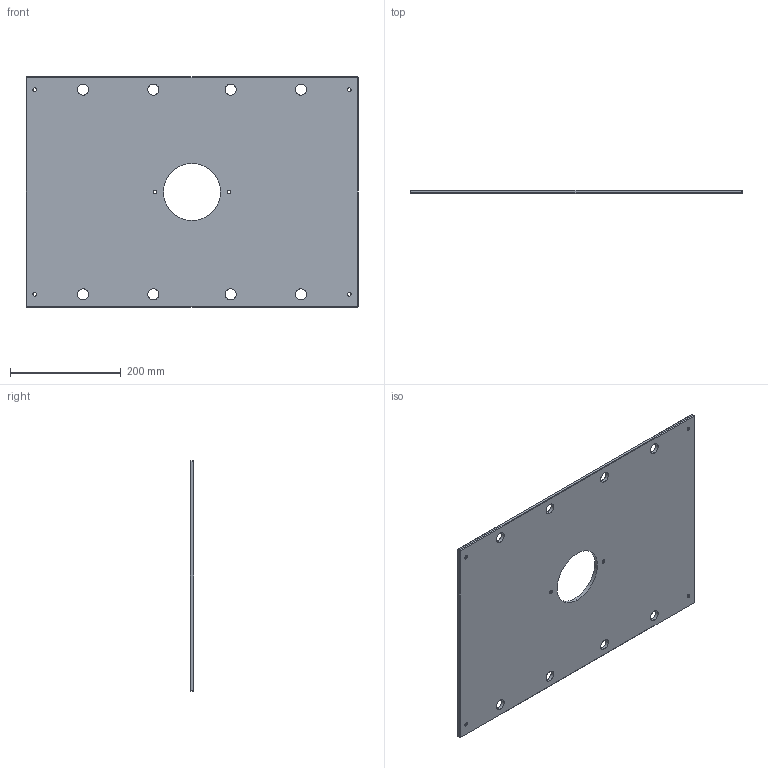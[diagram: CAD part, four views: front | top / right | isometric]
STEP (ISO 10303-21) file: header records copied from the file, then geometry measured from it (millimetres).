
FILE_DESCRIPTION (( 'STEP AP214' ), '1' );
FILE_NAME ('ME-0619-CH-1724.STEP', '2020-02-11T17:25:18', ( '' ), ( '' ), 'SwSTEP 2.0', 'SolidWorks 2018', '' );
FILE_SCHEMA (( 'AUTOMOTIVE_DESIGN' ));
Length unit declared in the file: inch
Products named in the file (1): ME-0619-CH-1724
Bounding box: 600.08 x 6.35 x 415.93 mm (x, y, z)
Volume: 1510051.8 mm3; surface area: 492817.9 mm2
Topology: 1 solids, 1 shells, 68 faces, 162 edges, 96 vertices
Faces by surface type: cylinder 30, plane 26, cone 12
Entity records: 2050 total; most frequent: DIRECTION 372, CARTESIAN_POINT 327, ORIENTED_EDGE 324, EDGE_CURVE 162, AXIS2_PLACEMENT_3D 141, EDGE_LOOP 98, VERTEX_POINT 96, LINE 90
